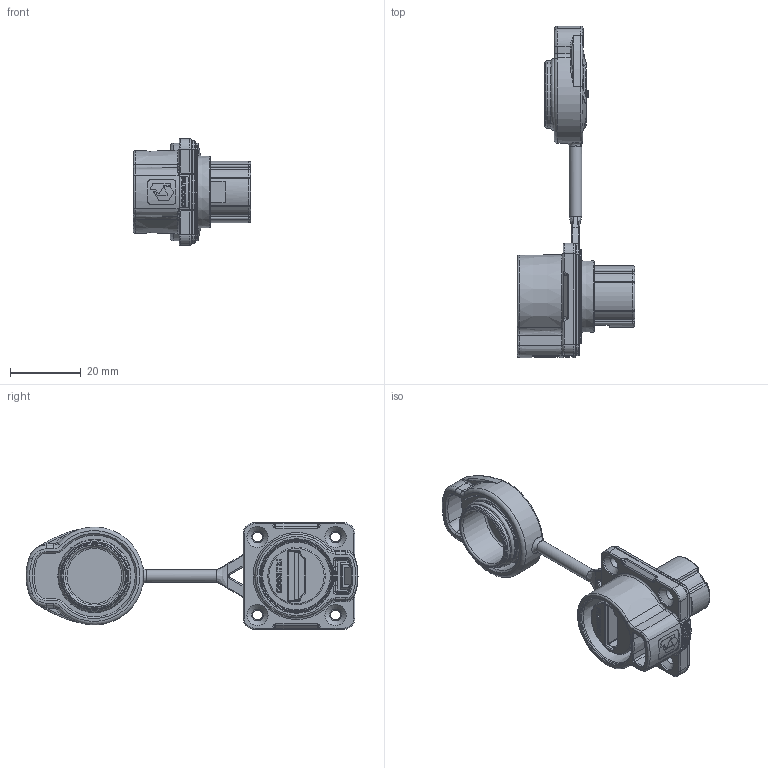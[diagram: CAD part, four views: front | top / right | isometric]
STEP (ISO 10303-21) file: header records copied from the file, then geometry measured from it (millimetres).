
FILE_DESCRIPTION (( 'STEP AP203' ), '1' );
FILE_NAME ('PLG20 HDMI²å×ù.STEP', '2025-03-20T11:17:32', ( '' ), ( '' ), 'SwSTEP 2.0', 'SolidWorks 2024', '' );
FILE_SCHEMA (( 'CONFIG_CONTROL_DESIGN' ));
Length unit declared in the file: millimetre
Products named in the file (1): PLG20 HDMI插座
Bounding box: 33.1 x 93.64 x 30 mm (x, y, z)
Volume: 13436.5 mm3; surface area: 12953.1 mm2
Topology: 1 solids, 19 shells, 1346 faces, 3331 edges, 2055 vertices
Faces by surface type: plane 434, cylinder 379, bspline 242, torus 202, cone 71, sphere 18
Full cylindrical faces by diameter (mm): 0.672 x1, 1.061 x1, 1.322 x1, 2.088 x1, 2.8 x4, 3.3 x4, 3.5 x1, 6 x4, 16.2 x1, 16.5 x1, 19.1 x4, 22.3 x1, 23.5 x1, 25 x1
Entity records: 45177 total; most frequent: CARTESIAN_POINT 15373, ORIENTED_EDGE 6444, DIRECTION 5796, EDGE_CURVE 3222, AXIS2_PLACEMENT_3D 2234, VERTEX_POINT 2030, EDGE_LOOP 1478, FACE_OUTER_BOUND 1393
